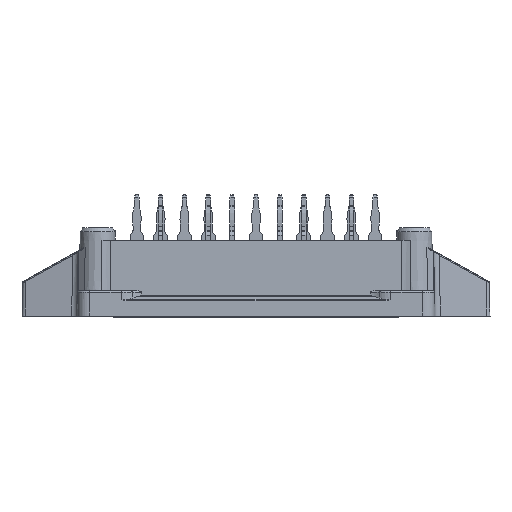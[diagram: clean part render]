
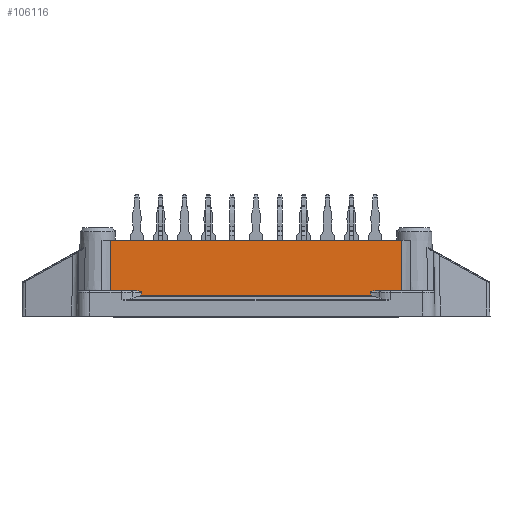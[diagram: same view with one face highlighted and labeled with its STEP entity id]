
A CAD part, front view. The second image highlights one B-rep face of the part: STEP entity #106116.
In plain terms, the highlighted planar face has unit normal (0, -1, 0.018).
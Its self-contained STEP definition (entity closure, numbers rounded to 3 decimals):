
#1953=PLANE('',#111576);
#7556=LINE('',#142753,#15124);
#8312=LINE('',#146630,#15880);
#8313=LINE('',#146646,#15881);
#8314=LINE('',#146657,#15882);
#15124=VECTOR('',#119062,1000.);
#15880=VECTOR('',#121466,1000.);
#15881=VECTOR('',#121467,1000.);
#15882=VECTOR('',#121468,1000.);
#24608=ORIENTED_EDGE('',*,*,#47227,.F.);
#24609=ORIENTED_EDGE('',*,*,#47228,.T.);
#24610=ORIENTED_EDGE('',*,*,#47229,.F.);
#24611=ORIENTED_EDGE('',*,*,#47230,.T.);
#24612=ORIENTED_EDGE('',*,*,#47231,.T.);
#24613=ORIENTED_EDGE('',*,*,#47232,.T.);
#24614=ORIENTED_EDGE('',*,*,#45612,.F.);
#24615=ORIENTED_EDGE('',*,*,#47233,.T.);
#24616=ORIENTED_EDGE('',*,*,#47234,.F.);
#24617=ORIENTED_EDGE('',*,*,#47235,.T.);
#45612=EDGE_CURVE('',#56964,#56965,#7556,.T.);
#47227=EDGE_CURVE('',#58498,#58499,#63786,.T.);
#47228=EDGE_CURVE('',#58498,#58500,#8312,.T.);
#47229=EDGE_CURVE('',#58501,#58500,#63787,.T.);
#47230=EDGE_CURVE('',#58501,#58502,#63788,.T.);
#47231=EDGE_CURVE('',#58502,#58503,#8313,.T.);
#47232=EDGE_CURVE('',#58503,#56965,#63789,.T.);
#47233=EDGE_CURVE('',#56964,#58504,#63790,.T.);
#47234=EDGE_CURVE('',#58505,#58504,#8314,.T.);
#47235=EDGE_CURVE('',#58505,#58499,#63791,.T.);
#56964=VERTEX_POINT('',#142752);
#56965=VERTEX_POINT('',#142754);
#58498=VERTEX_POINT('',#146628);
#58499=VERTEX_POINT('',#146629);
#58500=VERTEX_POINT('',#146631);
#58501=VERTEX_POINT('',#146636);
#58502=VERTEX_POINT('',#146645);
#58503=VERTEX_POINT('',#146647);
#58504=VERTEX_POINT('',#146656);
#58505=VERTEX_POINT('',#146658);
#63786=B_SPLINE_CURVE_WITH_KNOTS('',3,(#146624,#146625,#146626,#146627),
 .UNSPECIFIED.,.F.,.F.,(4,4),(0.001,0.001),
 .UNSPECIFIED.);
#63787=B_SPLINE_CURVE_WITH_KNOTS('',3,(#146632,#146633,#146634,#146635),
 .UNSPECIFIED.,.F.,.F.,(4,4),(0.,0.001),
 .UNSPECIFIED.);
#63788=B_SPLINE_CURVE_WITH_KNOTS('',3,(#146637,#146638,#146639,#146640,
#146641,#146642,#146643,#146644),.UNSPECIFIED.,.F.,.F.,(4,1,1,1,1,4),(0.,
0.,0.,0.,0.001,
0.001),.UNSPECIFIED.);
#63789=B_SPLINE_CURVE_WITH_KNOTS('',3,(#146648,#146649,#146650,#146651),
 .UNSPECIFIED.,.F.,.F.,(4,4),(0.,0.007),.UNSPECIFIED.);
#63790=B_SPLINE_CURVE_WITH_KNOTS('',3,(#146652,#146653,#146654,#146655),
 .UNSPECIFIED.,.F.,.F.,(4,4),(0.,0.007),
 .UNSPECIFIED.);
#63791=B_SPLINE_CURVE_WITH_KNOTS('',3,(#146659,#146660,#146661,#146662,
#146663,#146664,#146665),.UNSPECIFIED.,.F.,.F.,(4,1,1,1,4),(0.,0.,
0.001,0.001,0.001),
 .UNSPECIFIED.);
#64215=EDGE_LOOP('',(#24608,#24609,#24610,#24611,#24612,#24613,#24614,#24615,
#24616,#24617));
#69015=FACE_BOUND('',#64215,.T.);
#106116=ADVANCED_FACE('',(#69015),#1953,.T.);
#111576=AXIS2_PLACEMENT_3D('',#146623,#121464,#121465);
#119062=DIRECTION('',(1.,0.,0.));
#121464=DIRECTION('',(0.,-1.,0.017));
#121465=DIRECTION('',(0.,-0.017,-1.));
#121466=DIRECTION('',(1.,0.,0.));
#121467=DIRECTION('',(1.,0.,0.));
#121468=DIRECTION('',(-1.,0.,0.));
#142752=CARTESIAN_POINT('',(-19.525,-27.653,10.2));
#142753=CARTESIAN_POINT('',(-26.5,-27.653,10.2));
#142754=CARTESIAN_POINT('',(19.525,-27.653,10.2));
#146623=CARTESIAN_POINT('',(-26.5,-27.78,2.9));
#146624=CARTESIAN_POINT('',(-15.378,-27.781,2.822));
#146625=CARTESIAN_POINT('',(-15.379,-27.779,2.949));
#146626=CARTESIAN_POINT('',(-15.379,-27.777,3.076));
#146627=CARTESIAN_POINT('',(-15.379,-27.775,3.203));
#146628=CARTESIAN_POINT('',(-15.378,-27.781,2.822));
#146629=CARTESIAN_POINT('',(-15.379,-27.775,3.203));
#146630=CARTESIAN_POINT('',(-26.5,-27.781,2.822));
#146631=CARTESIAN_POINT('',(15.378,-27.781,2.822));
#146632=CARTESIAN_POINT('',(15.379,-27.775,3.203));
#146633=CARTESIAN_POINT('',(15.379,-27.777,3.076));
#146634=CARTESIAN_POINT('',(15.379,-27.779,2.949));
#146635=CARTESIAN_POINT('',(15.378,-27.781,2.822));
#146636=CARTESIAN_POINT('',(15.379,-27.775,3.203));
#146637=CARTESIAN_POINT('',(15.379,-27.775,3.203));
#146638=CARTESIAN_POINT('',(15.379,-27.774,3.235));
#146639=CARTESIAN_POINT('',(15.441,-27.773,3.274));
#146640=CARTESIAN_POINT('',(15.55,-27.773,3.32));
#146641=CARTESIAN_POINT('',(15.702,-27.772,3.361));
#146642=CARTESIAN_POINT('',(15.882,-27.771,3.392));
#146643=CARTESIAN_POINT('',(16.005,-27.771,3.4));
#146644=CARTESIAN_POINT('',(16.067,-27.771,3.4));
#146645=CARTESIAN_POINT('',(16.067,-27.771,3.4));
#146646=CARTESIAN_POINT('',(-26.5,-27.771,3.4));
#146647=CARTESIAN_POINT('',(19.511,-27.771,3.4));
#146648=CARTESIAN_POINT('',(19.511,-27.771,3.4));
#146649=CARTESIAN_POINT('',(19.516,-27.732,5.667));
#146650=CARTESIAN_POINT('',(19.521,-27.692,7.933));
#146651=CARTESIAN_POINT('',(19.525,-27.653,10.2));
#146652=CARTESIAN_POINT('',(-19.525,-27.653,10.2));
#146653=CARTESIAN_POINT('',(-19.521,-27.692,7.933));
#146654=CARTESIAN_POINT('',(-19.516,-27.732,5.667));
#146655=CARTESIAN_POINT('',(-19.511,-27.771,3.4));
#146656=CARTESIAN_POINT('',(-19.511,-27.771,3.4));
#146657=CARTESIAN_POINT('',(-26.5,-27.771,3.4));
#146658=CARTESIAN_POINT('',(-16.067,-27.771,3.4));
#146659=CARTESIAN_POINT('',(-16.067,-27.771,3.4));
#146660=CARTESIAN_POINT('',(-15.944,-27.771,3.4));
#146661=CARTESIAN_POINT('',(-15.762,-27.772,3.377));
#146662=CARTESIAN_POINT('',(-15.549,-27.773,3.32));
#146663=CARTESIAN_POINT('',(-15.44,-27.773,3.273));
#146664=CARTESIAN_POINT('',(-15.379,-27.774,3.235));
#146665=CARTESIAN_POINT('',(-15.379,-27.775,3.203));
